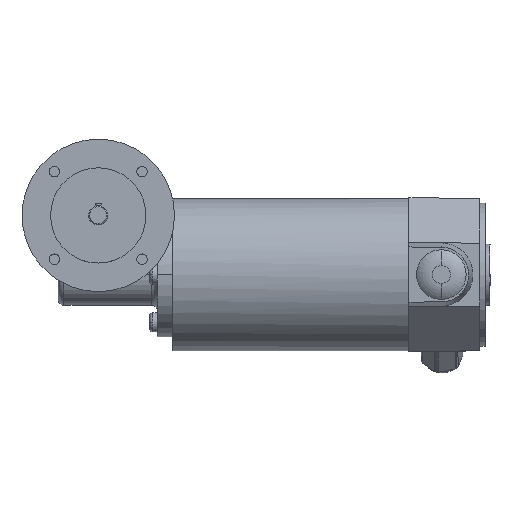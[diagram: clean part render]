
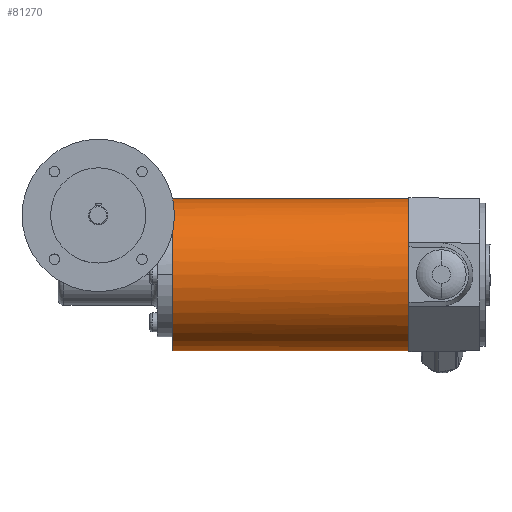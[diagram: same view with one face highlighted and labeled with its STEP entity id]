
A CAD part, top view. The second image highlights one B-rep face of the part: STEP entity #81270.
In plain terms, the highlighted cylindrical face has radius 40 mm (diameter 80 mm), a partial arc.
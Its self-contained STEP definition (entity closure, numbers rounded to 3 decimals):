
#5680=CARTESIAN_POINT('',(-51.849,455.,
19.808));
#5690=DIRECTION('',(-0.026,0.,
1.));
#5700=DIRECTION('',(1.,0.,
0.026));
#5710=AXIS2_PLACEMENT_3D('',#5680,#5690,#5700);
#5720=CIRCLE('',#5710,40.);
#5730=CARTESIAN_POINT('',(-11.863,455.,
20.855));
#5740=VERTEX_POINT('',#5730);
#5750=CARTESIAN_POINT('',(-91.835,455.,
18.761));
#5760=VERTEX_POINT('',#5750);
#5770=EDGE_CURVE('',#5740,#5760,#5720,.T.);
#38280=CARTESIAN_POINT('',(-48.603,455.,
-104.15));
#38290=DIRECTION('',(-0.026,0.,
1.));
#38300=DIRECTION('',(1.,0.,
0.026));
#38310=AXIS2_PLACEMENT_3D('',#38280,#38290,#38300);
#38320=CIRCLE('',#38310,40.);
#38330=CARTESIAN_POINT('',(-59.452,493.5,
-104.434));
#38340=VERTEX_POINT('',#38330);
#38350=CARTESIAN_POINT('',(-88.589,455.,
-105.197));
#38360=VERTEX_POINT('',#38350);
#38370=EDGE_CURVE('',#38340,#38360,#38320,.T.);
#38390=CARTESIAN_POINT('',(-8.617,455.,
-103.102));
#38400=VERTEX_POINT('',#38390);
#38430=EDGE_CURVE('',#38400,#38340,#38320,.T.);
#39970=CARTESIAN_POINT('',(-48.603,455.,
-104.15));
#39980=DIRECTION('',(-0.026,0.,
1.));
#39990=DIRECTION('',(1.,0.,
0.026));
#40000=AXIS2_PLACEMENT_3D('',#39970,#39980,#39990);
#40010=CYLINDRICAL_SURFACE('',#40000,40.);
#40020=CARTESIAN_POINT('',(-8.617,455.,
-103.102));
#40030=DIRECTION('',(-0.026,0.,
1.));
#40040=VECTOR('',#40030,1.);
#40050=LINE('',#40020,#40040);
#40060=EDGE_CURVE('',#38400,#5740,#40050,.T.);
#40090=CARTESIAN_POINT('',(-88.589,455.,
-105.197));
#40100=DIRECTION('',(-0.026,0.,
1.));
#40110=VECTOR('',#40100,1.);
#40120=LINE('',#40090,#40110);
#40130=EDGE_CURVE('',#38360,#5760,#40120,.T.);
#81200=ORIENTED_EDGE('',*,*,#40060,.F.);
#81210=ORIENTED_EDGE('',*,*,#5770,.F.);
#81220=ORIENTED_EDGE('',*,*,#40130,.T.);
#81230=ORIENTED_EDGE('',*,*,#38370,.T.);
#81240=ORIENTED_EDGE('',*,*,#38430,.T.);
#81250=EDGE_LOOP('',(#81240,#81230,#81220,#81210,#81200));
#81260=FACE_OUTER_BOUND('',#81250,.T.);
#81270=ADVANCED_FACE('',(#81260),#40010,.T.);
